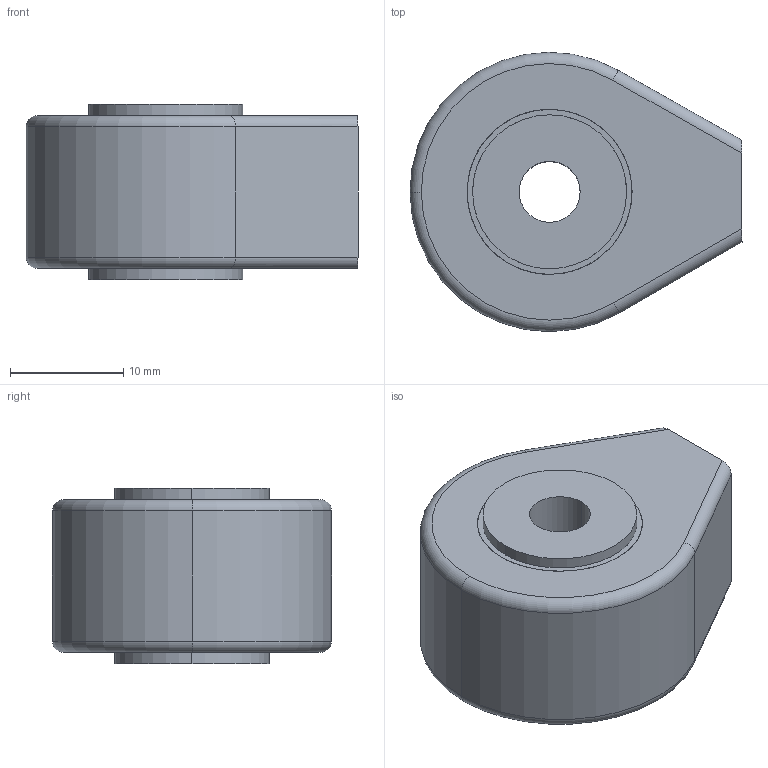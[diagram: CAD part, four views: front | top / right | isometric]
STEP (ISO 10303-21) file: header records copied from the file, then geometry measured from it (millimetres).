
FILE_DESCRIPTION (( 'STEP AP203' ), '1' );
FILE_NAME ('DW-TRHT05-XXXX Triggy HT05.STEP', '2022-02-25T15:29:59', ( '' ), ( '' ), 'SwSTEP 2.0', 'SolidWorks 2021', '' );
FILE_SCHEMA (( 'CONFIG_CONTROL_DESIGN' ));
Length unit declared in the file: millimetre
Products named in the file (4): DW-TRBAXX-XXXX- BAGUE SIMPLIFIEE_HT05; DW-TRENXX-XXXX- ENTRETOISE SIMPLIFIEE_HT05; DW-TRHT05-XXXX Triggy HT05; DW-TRENXX-0000-Enrobage simplifie TRIGGYS_HT05
Assembly tree (3 placements, depth 2):
  DW-TRHT05-XXXX Triggy HT05
    DW-TRENXX-XXXX- ENTRETOISE SIMPLIFIEE_HT05
    DW-TRBAXX-XXXX- BAGUE SIMPLIFIEE_HT05
    DW-TRENXX-0000-Enrobage simplifie TRIGGYS_HT05
Bounding box: 29.37 x 24.7 x 15.5 mm (x, y, z)
Volume: 7341.5 mm3; surface area: 4889.7 mm2
Topology: 3 solids, 3 shells, 206 faces, 550 edges, 364 vertices
Faces by surface type: bspline 97, plane 89, cylinder 16, torus 4
Entity records: 7515 total; most frequent: CARTESIAN_POINT 2616, ORIENTED_EDGE 1100, DIRECTION 609, EDGE_CURVE 550, VERTEX_POINT 364, LINE 311, VECTOR 311, EDGE_LOOP 226
